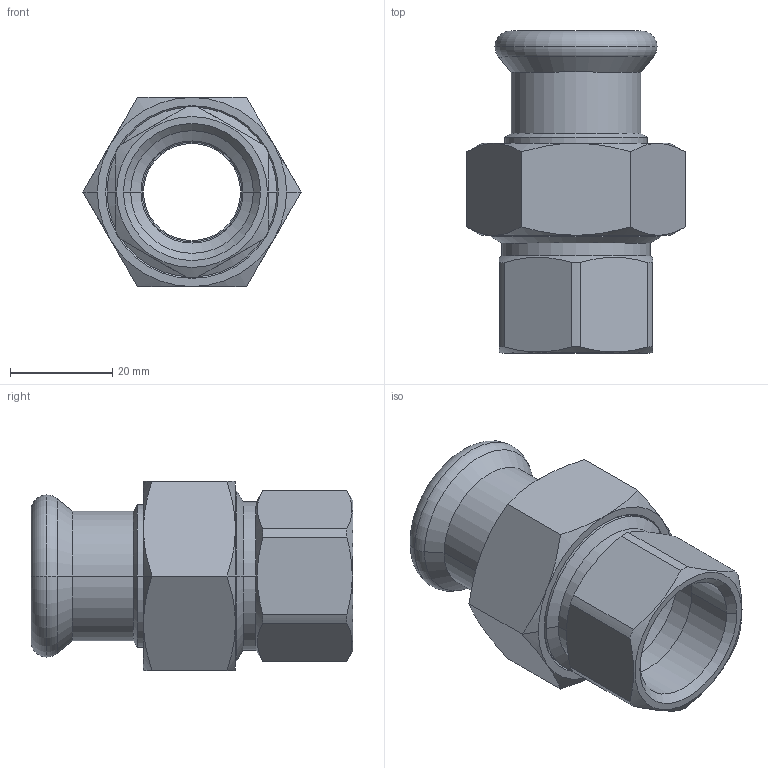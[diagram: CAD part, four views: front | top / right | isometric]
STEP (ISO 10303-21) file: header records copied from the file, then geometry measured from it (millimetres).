
FILE_DESCRIPTION(('CoCreate Modeling STEP Export'),'2;1');
FILE_NAME('C1444 22xRp3-4.stp','2014-11-12T16:45:15',(''),(''),'CoCreate Modeling STEP processor for AP214 (Solid Model)','CoCreate Modeling 17.00A 17-Jun-2010 (C) Parametric Technology GmbH','');
FILE_SCHEMA(('AUTOMOTIVE_DESIGN { 1 0 10303 214 1 1 1 1 }'));
Length unit declared in the file: millimetre
Products named in the file (2): C1444_22xRp3-4
Assembly tree (1 placements, depth 2):
  C1444_22xRp3-4
    C1444_22xRp3-4
Bounding box: 42.72 x 63 x 37 mm (x, y, z)
Volume: 25538.5 mm3; surface area: 14863.1 mm2
Topology: 1 solids, 1 shells, 110 faces, 251 edges, 149 vertices
Faces by surface type: cone 48, cylinder 34, plane 20, torus 8
Entity records: 4398 total; most frequent: CARTESIAN_POINT 2279, ORIENTED_EDGE 502, DIRECTION 324, EDGE_CURVE 251, VERTEX_POINT 149, AXIS2_PLACEMENT_3D 118, EDGE_LOOP 118, FACE_OUTER_BOUND 110
